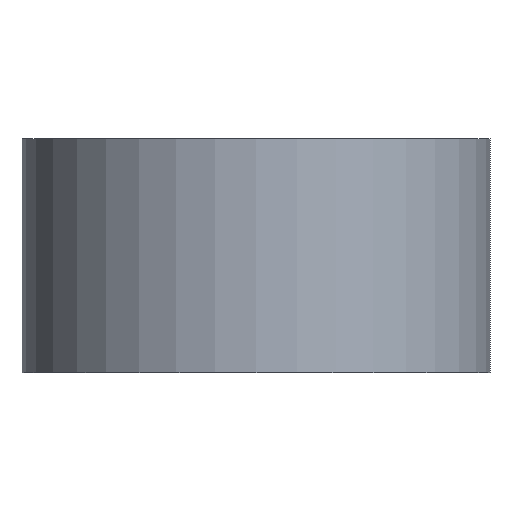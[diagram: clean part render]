
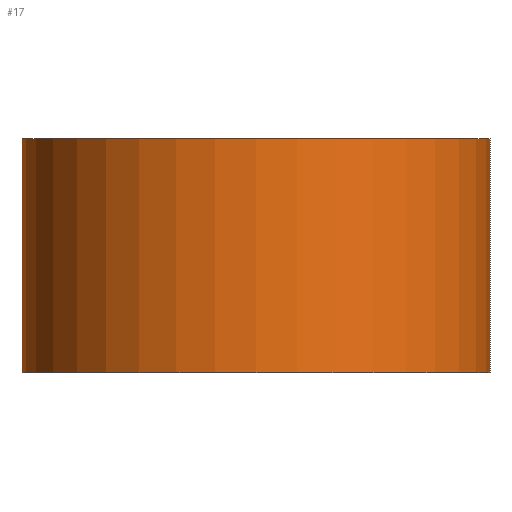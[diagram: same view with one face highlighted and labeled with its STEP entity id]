
A CAD part, front view. The second image highlights one B-rep face of the part: STEP entity #17.
In plain terms, the highlighted cylindrical face has radius 36 mm (diameter 72 mm), a full revolution.
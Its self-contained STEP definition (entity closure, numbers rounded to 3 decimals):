
#17 = ADVANCED_FACE('',(#18),#45,.T.);
#18 = FACE_BOUND('',#19,.T.);
#19 = EDGE_LOOP('',(#20,#29,#37,#44));
#20 = ORIENTED_EDGE('',*,*,#21,.F.);
#21 = EDGE_CURVE('',#22,#22,#24,.T.);
#22 = VERTEX_POINT('',#23);
#23 = CARTESIAN_POINT('',(36.,0.,36.));
#24 = CIRCLE('',#25,36.);
#25 = AXIS2_PLACEMENT_3D('',#26,#27,#28);
#26 = CARTESIAN_POINT('',(0.,0.,36.));
#27 = DIRECTION('',(0.,0.,1.));
#28 = DIRECTION('',(1.,0.,-0.));
#29 = ORIENTED_EDGE('',*,*,#30,.F.);
#30 = EDGE_CURVE('',#31,#22,#33,.T.);
#31 = VERTEX_POINT('',#32);
#32 = CARTESIAN_POINT('',(36.,0.,0.));
#33 = LINE('',#34,#35);
#34 = CARTESIAN_POINT('',(36.,0.,0.));
#35 = VECTOR('',#36,1.);
#36 = DIRECTION('',(0.,0.,1.));
#37 = ORIENTED_EDGE('',*,*,#38,.T.);
#38 = EDGE_CURVE('',#31,#31,#39,.T.);
#39 = CIRCLE('',#40,36.);
#40 = AXIS2_PLACEMENT_3D('',#41,#42,#43);
#41 = CARTESIAN_POINT('',(0.,0.,0.));
#42 = DIRECTION('',(0.,0.,1.));
#43 = DIRECTION('',(1.,0.,-0.));
#44 = ORIENTED_EDGE('',*,*,#30,.T.);
#45 = CYLINDRICAL_SURFACE('',#46,36.);
#46 = AXIS2_PLACEMENT_3D('',#47,#48,#49);
#47 = CARTESIAN_POINT('',(0.,0.,0.));
#48 = DIRECTION('',(0.,0.,1.));
#49 = DIRECTION('',(1.,0.,-0.));
